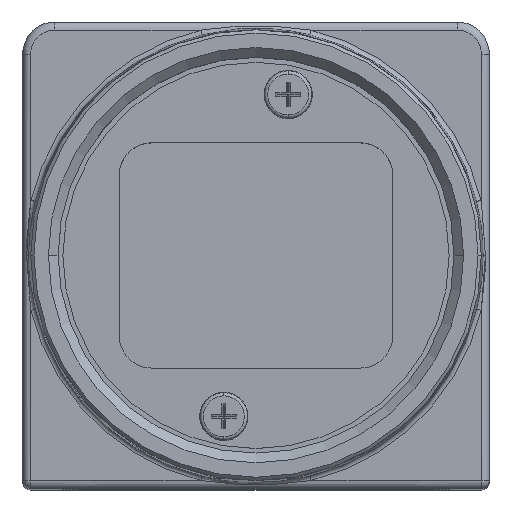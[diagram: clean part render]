
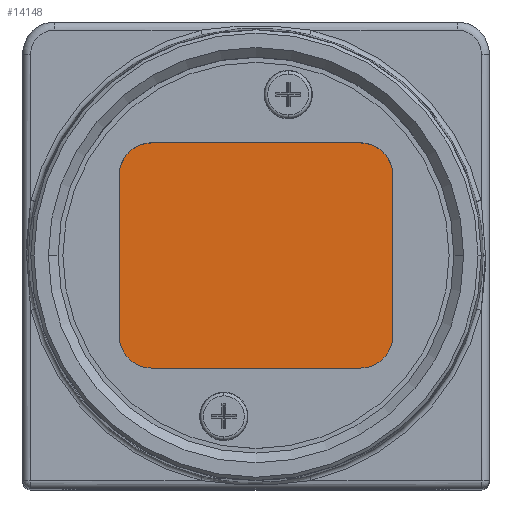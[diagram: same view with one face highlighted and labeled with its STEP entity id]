
A CAD part, top view. The second image highlights one B-rep face of the part: STEP entity #14148.
In plain terms, the highlighted planar face has unit normal (0, 0, 1).
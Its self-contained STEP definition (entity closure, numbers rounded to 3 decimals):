
#3009=CARTESIAN_POINT('',(-6.5,5.,39.01));
#3010=DIRECTION('',(0.,0.,1.));
#3011=DIRECTION('',(0.,1.,0.));
#3012=AXIS2_PLACEMENT_3D('',#3009,#3010,#3011);
#3014=DIRECTION('',(-1.,0.,0.));
#3015=VECTOR('',#3014,13.);
#3016=CARTESIAN_POINT('',(6.5,7.,39.01));
#3017=LINE('',#3016,#3015);
#3018=CARTESIAN_POINT('',(6.5,5.,39.01));
#3019=DIRECTION('',(0.,0.,1.));
#3020=DIRECTION('',(1.,0.,0.));
#3021=AXIS2_PLACEMENT_3D('',#3018,#3019,#3020);
#3023=DIRECTION('',(0.,1.,0.));
#3024=VECTOR('',#3023,10.);
#3025=CARTESIAN_POINT('',(8.5,-5.,39.01));
#3026=LINE('',#3025,#3024);
#3027=CARTESIAN_POINT('',(6.5,-5.,39.01));
#3028=DIRECTION('',(0.,0.,1.));
#3029=DIRECTION('',(0.,-1.,0.));
#3030=AXIS2_PLACEMENT_3D('',#3027,#3028,#3029);
#3032=DIRECTION('',(1.,0.,0.));
#3033=VECTOR('',#3032,13.);
#3034=CARTESIAN_POINT('',(-6.5,-7.,39.01));
#3035=LINE('',#3034,#3033);
#3036=CARTESIAN_POINT('',(-6.5,-5.,39.01));
#3037=DIRECTION('',(0.,0.,1.));
#3038=DIRECTION('',(-1.,0.,0.));
#3039=AXIS2_PLACEMENT_3D('',#3036,#3037,#3038);
#3041=DIRECTION('',(0.,-1.,0.));
#3042=VECTOR('',#3041,10.);
#3043=CARTESIAN_POINT('',(-8.5,5.,39.01));
#3044=LINE('',#3043,#3042);
#7764=CARTESIAN_POINT('',(6.5,7.,39.01));
#7765=VERTEX_POINT('',#7764);
#7766=CARTESIAN_POINT('',(-6.5,7.,39.01));
#7767=VERTEX_POINT('',#7766);
#7768=CARTESIAN_POINT('',(8.5,-5.,39.01));
#7769=VERTEX_POINT('',#7768);
#7770=CARTESIAN_POINT('',(8.5,5.,39.01));
#7771=VERTEX_POINT('',#7770);
#7772=CARTESIAN_POINT('',(-6.5,-7.,39.01));
#7773=VERTEX_POINT('',#7772);
#7774=CARTESIAN_POINT('',(6.5,-7.,39.01));
#7775=VERTEX_POINT('',#7774);
#7776=CARTESIAN_POINT('',(-8.5,5.,39.01));
#7777=VERTEX_POINT('',#7776);
#7778=CARTESIAN_POINT('',(-8.5,-5.,39.01));
#7779=VERTEX_POINT('',#7778);
#14133=CARTESIAN_POINT('',(0.,0.,39.01));
#14134=DIRECTION('',(0.,0.,1.));
#14135=DIRECTION('',(1.,0.,0.));
#14136=AXIS2_PLACEMENT_3D('',#14133,#14134,#14135);
#14137=PLANE('',#14136);
#14138=ORIENTED_EDGE('',*,*,#14078,.F.);
#14139=ORIENTED_EDGE('',*,*,#14099,.F.);
#14140=ORIENTED_EDGE('',*,*,#14119,.F.);
#14141=ORIENTED_EDGE('',*,*,#13972,.F.);
#14142=ORIENTED_EDGE('',*,*,#13994,.F.);
#14143=ORIENTED_EDGE('',*,*,#14015,.F.);
#14144=ORIENTED_EDGE('',*,*,#14036,.F.);
#14145=ORIENTED_EDGE('',*,*,#14057,.F.);
#14146=EDGE_LOOP('',(#14138,#14139,#14140,#14141,#14142,#14143,#14144,#14145));
#14147=FACE_OUTER_BOUND('',#14146,.F.);
#3013=CIRCLE('',#3012,2.);
#3022=CIRCLE('',#3021,2.);
#3031=CIRCLE('',#3030,2.);
#3040=CIRCLE('',#3039,2.);
#13972=EDGE_CURVE('',#7769,#7771,#3026,.T.);
#13994=EDGE_CURVE('',#7775,#7769,#3031,.T.);
#14015=EDGE_CURVE('',#7773,#7775,#3035,.T.);
#14036=EDGE_CURVE('',#7779,#7773,#3040,.T.);
#14057=EDGE_CURVE('',#7777,#7779,#3044,.T.);
#14078=EDGE_CURVE('',#7767,#7777,#3013,.T.);
#14099=EDGE_CURVE('',#7765,#7767,#3017,.T.);
#14119=EDGE_CURVE('',#7771,#7765,#3022,.T.);
#14148=ADVANCED_FACE('',(#14147),#14137,.T.);
